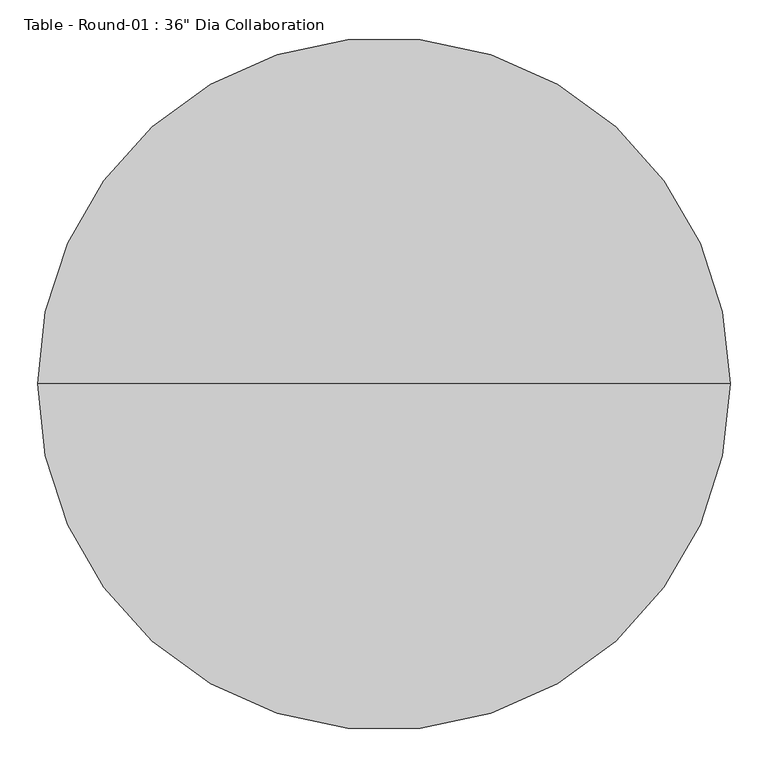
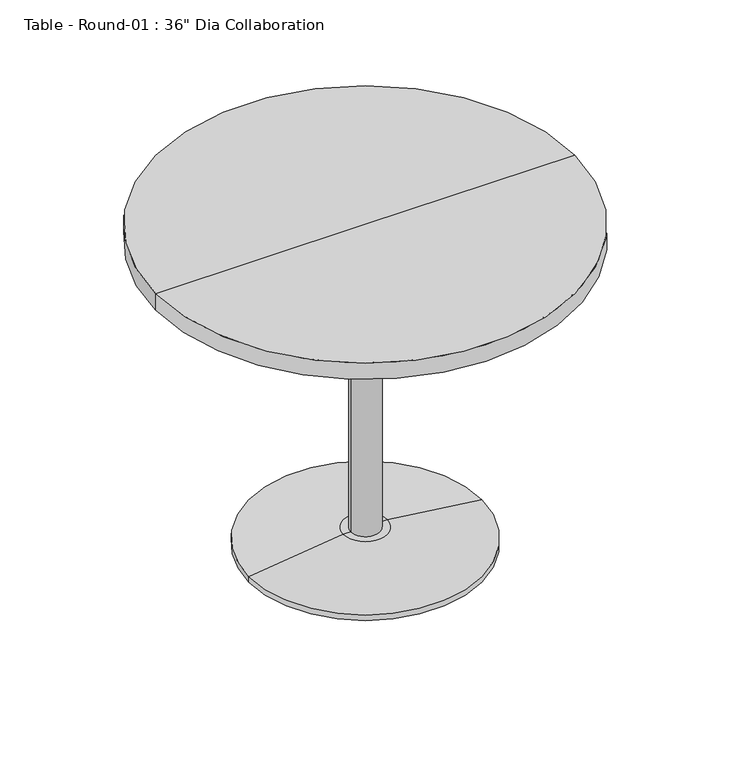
"""IFC4 building model written with IfcOpenShell, lengths in millimetres: furniture geometry."""

from ifc_helpers import new_model, si_unit, point, frame, origin, origin_2d, place, context, project, spatial, polyline, circle_curve, trimmed, segment, composite_curve, outline, extrude, source, transform, mapped, element, save
from ifc_brep_helpers import plane_surface, cylinder_surface, revolved_surface, advanced_brep


def furniture_0465b0ec(model_context):
    return source(origin(), model_context, "Body", "SolidModel", [
        extrude(outline(composite_curve([segment(trimmed(circle_curve(origin_2d(), 31.75), [point((-31.75, 0.0))], [point((31.75, 0.0))], False, "CARTESIAN"), True, "CONTINUOUS"), segment(trimmed(circle_curve(origin_2d(), 31.75), [point((31.75, 0.0))], [point((-31.75, 0.0))], False, "CARTESIAN"), True, "CONTINUOUS")], self_intersect=False)), frame((0.0, 0.0, 38.1), z_axis=(0.0, 0.0, 1.0), x_axis=(1.0, 0.0, 0.0)), (0.0, 0.0, 1.0), 660.4),
        advanced_brep(
        [(457.2, 0.0, 736.6), (0.0, 0.0, 736.6), (-457.2, 0.0, 736.6), (0.0, 0.0, 698.5), (457.2, 0.0, 698.5), (-457.2, 0.0, 698.5)],
        [
            (0, 1),
            (1, 2),
            (2, 0, circle_curve(frame((0.0, 0.0, 736.6), z_axis=(0.0, 0.0, 1.0), x_axis=(-1.0, 0.0, 0.0)), 457.2)),
            (0, 2, circle_curve(frame((0.0, 0.0, 736.6), z_axis=(0.0, 0.0, 1.0), x_axis=(-1.0, 0.0, 0.0)), 457.2)),
            (3, 4),
            (4, 5, circle_curve(frame((0.0, 0.0, 698.5), z_axis=(0.0, 0.0, -1.0), x_axis=(-1.0, 0.0, 0.0)), 457.2)),
            (5, 3),
            (5, 4, circle_curve(frame((0.0, 0.0, 698.5), z_axis=(0.0, 0.0, -1.0), x_axis=(-1.0, 0.0, 0.0)), 457.2)),
            (4, 0),
            (2, 5),
        ],
        [
            plane_surface(frame((0.0, 0.0, 736.6), z_axis=(0.0, 0.0, 1.0), x_axis=(-1.0, 0.0, 0.0))),
            plane_surface(frame((0.0, 0.0, 698.5), z_axis=(0.0, 0.0, -1.0), x_axis=(-1.0, 0.0, 0.0))),
            cylinder_surface(frame((0.0, 0.0, 717.55), z_axis=(0.0, 0.0, -1.0), x_axis=(-1.0, 0.0, 0.0)), 457.2),
        ],
        [
            (0, [[1, 2, 3]]),
            (0, [[-2, -1, 4]]),
            (1, [[5, 6, 7]]),
            (1, [[-7, 8, -5]]),
            (2, [[9, -3, 10, -6]]),
            (2, [[-10, -4, -9, -8]]),
        ],
    ),
        advanced_brep(
        [(0.0, 0.0, 0.0), (254.0, 0.0, 0.0), (-254.0, 0.0, 0.0), (47.625, 0.0, 38.1), (0.0, 0.0, 38.1), (-47.625, 0.0, 38.1), (254.0, 0.0, 12.7), (-254.0, 0.0, 12.7)],
        [
            (0, 1),
            (1, 2, circle_curve(frame((0.0, 0.0, 0.0), z_axis=(0.0, 0.0, -1.0), x_axis=(-1.0, 0.0, 0.0)), 254.0)),
            (2, 0),
            (2, 1, circle_curve(frame((0.0, 0.0, 0.0), z_axis=(0.0, 0.0, -1.0), x_axis=(-1.0, 0.0, 0.0)), 254.0)),
            (3, 4),
            (4, 5),
            (5, 3, circle_curve(frame((0.0, 0.0, 38.1), z_axis=(0.0, 0.0, 1.0), x_axis=(-1.0, 0.0, 0.0)), 47.625)),
            (3, 5, circle_curve(frame((0.0, 0.0, 38.1), z_axis=(0.0, 0.0, 1.0), x_axis=(-1.0, 0.0, 0.0)), 47.625)),
            (6, 3),
            (5, 7),
            (7, 6, circle_curve(frame((0.0, 0.0, 12.7), z_axis=(0.0, 0.0, 1.0), x_axis=(-1.0, 0.0, 0.0)), 254.0)),
            (6, 7, circle_curve(frame((0.0, 0.0, 12.7), z_axis=(0.0, 0.0, 1.0), x_axis=(-1.0, 0.0, 0.0)), 254.0)),
            (1, 6),
            (7, 2),
        ],
        [
            plane_surface(frame((0.0, 0.0, 0.0), z_axis=(0.0, 0.0, -1.0), x_axis=(-1.0, 0.0, 0.0))),
            plane_surface(frame((0.0, 0.0, 38.1), z_axis=(0.0, 0.0, 1.0), x_axis=(-1.0, 0.0, 0.0))),
            revolved_surface(polyline([(-47.625, 0.0, 38.1), (-254.0, 0.0, 12.7)]), (0.0, 0.0, 215.9), (0.0, 0.0, -1.0)),
            cylinder_surface(frame((0.0, 0.0, 215.9), z_axis=(0.0, 0.0, -1.0), x_axis=(-1.0, 0.0, 0.0)), 254.0),
        ],
        [
            (0, [[1, 2, 3]]),
            (0, [[-3, 4, -1]]),
            (1, [[5, 6, 7]]),
            (1, [[-6, -5, 8]]),
            (2, [[9, -7, 10, 11]]),
            (2, [[-10, -8, -9, 12]]),
            (3, [[13, -11, 14, -2]]),
            (3, [[-14, -12, -13, -4]]),
        ],
    ),
    ])


if __name__ == "__main__":
    model = new_model("IFC4")
    model_context = context("Model", 3, world=origin())
    ifc_project = project(units=[si_unit("LENGTHUNIT", "METRE", prefix="MILLI")], contexts=[model_context])
    site = spatial("IfcSite", under=ifc_project)
    building = spatial("IfcBuilding", under=site)
    placement = place(None, origin())
    furniture_shape = furniture_0465b0ec(model_context)
    element("IfcFurniture", 1, ObjectType="Table - Round-01 : 36\" Dia Collaboration", at=placement, inside=building, context=model_context, shape_type="MappedRepresentation", body=[
        mapped(furniture_shape, transform((0.0, 0.0, 0.0), x_axis=(1.0, 0.0, 0.0), y_axis=(0.0, 1.0, 0.0), z_axis=(0.0, 0.0, 1.0))),
    ])
    save(model, "model.ifc")
